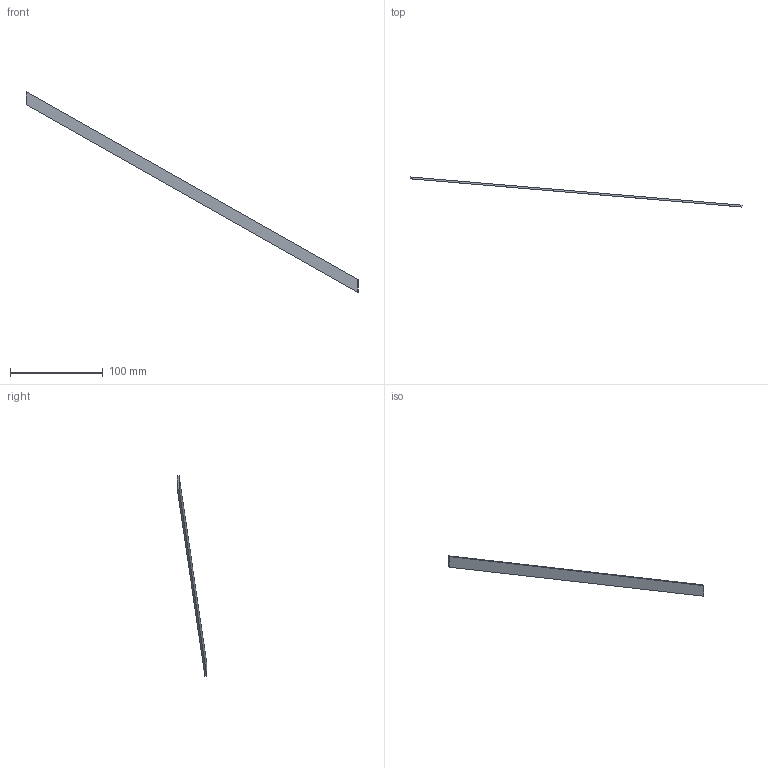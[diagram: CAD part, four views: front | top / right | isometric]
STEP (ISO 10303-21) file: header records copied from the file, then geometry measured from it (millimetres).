
FILE_DESCRIPTION(('Open CASCADE Model'),'2;1');
FILE_NAME('Open CASCADE Shape Model','2026-10-04T02:31:38',('Author'),( 'Open CASCADE'),'Open CASCADE STEP processor 8.0','Open CASCADE 8.0' ,'Unknown');
FILE_SCHEMA(('AUTOMOTIVE_DESIGN { 1 0 10303 214 1 1 1 1 }'));
Length unit declared in the file: millimetre
Products named in the file (1): Open CASCADE STEP translator 8.0 125
Bounding box: 357.67 x 31.99 x 216 mm (x, y, z)
Volume: 10045.2 mm3; surface area: 11748 mm2
Topology: 1 solids, 1 shells, 6 faces, 12 edges, 8 vertices
Faces by surface type: plane 6
Entity records: 322 total; most frequent: CARTESIAN_POINT 51, DIRECTION 50, LINE 36, VECTOR 36, ORIENTED_EDGE 24, PCURVE 24, DEFINITIONAL_REPRESENTATION 24, EDGE_CURVE 12
